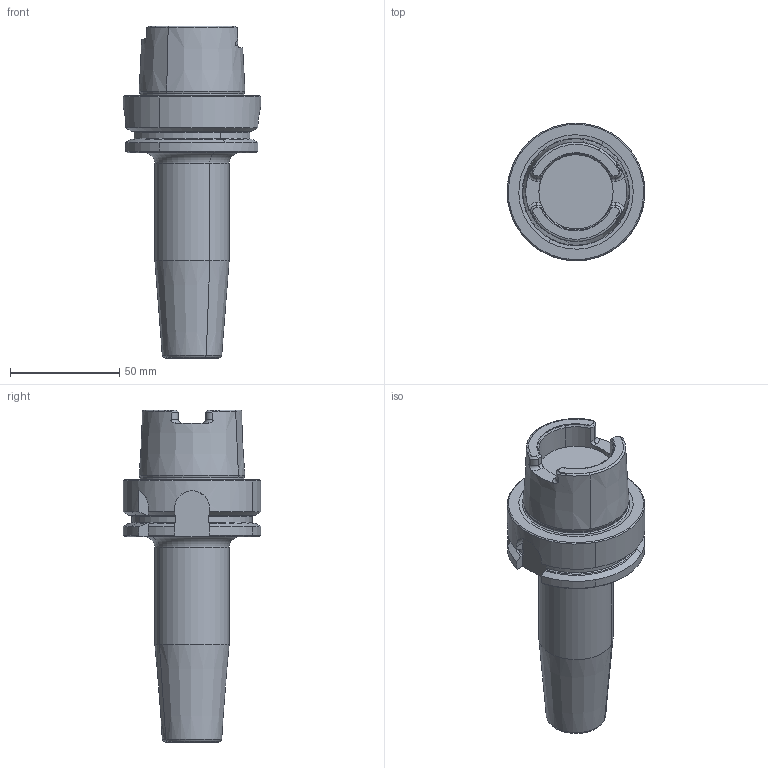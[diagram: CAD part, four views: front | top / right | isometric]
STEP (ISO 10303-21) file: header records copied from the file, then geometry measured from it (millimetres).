
FILE_DESCRIPTION(('CATIA V5 STEP','CAx-IF Rec.Pracs.--- Model Styling and Organization---1.2---2011-12-15'),'2;1');
FILE_NAME('\\nas01\drv1\utils\eitdev\rte\eit\transmagicconvert\db\out\4504025 L.stp','2014-03-31T09:39:01+00:00',('none'),('none'),'CATIA Version 5 Release 21 SP 5 (IN-10)','CATIA V5 STEP AP214','none');
FILE_SCHEMA(('AUTOMOTIVE_DESIGN { 1 0 10303 214 1 1 1 1 }'));
Length unit declared in the file: millimetre
Products named in the file (1): 60967199_0 Holder-Tool HSK A 63 SRKIN 16X120
Bounding box: 62.99 x 63 x 152 mm (x, y, z)
Volume: 195762.6 mm3; surface area: 26728.2 mm2
Topology: 1 solids, 1 shells, 136 faces, 349 edges, 218 vertices
Faces by surface type: plane 41, cone 35, cylinder 32, torus 28
Entity records: 4198 total; most frequent: CARTESIAN_POINT 1278, ORIENTED_EDGE 698, DIRECTION 432, EDGE_CURVE 349, AXIS2_PLACEMENT_3D 232, VERTEX_POINT 218, CIRCLE 151, EDGE_LOOP 139
